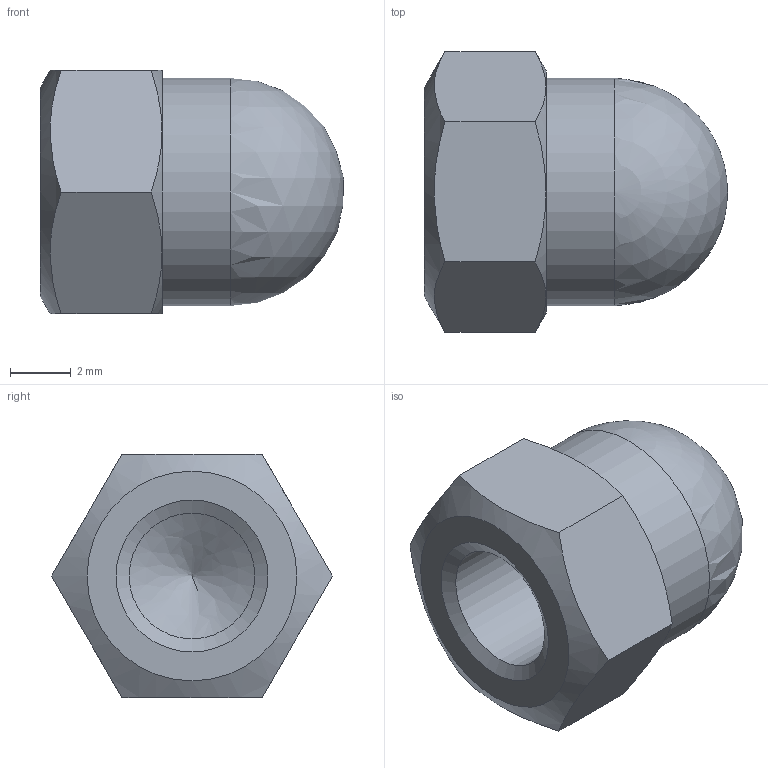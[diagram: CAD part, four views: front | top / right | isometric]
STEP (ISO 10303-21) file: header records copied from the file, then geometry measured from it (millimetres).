
FILE_DESCRIPTION((''),'2;1');
FILE_NAME('C:\Documents and Settings\Administrator\My Documents\Andys Backup Data\WEBSITE\DREAMWEAVER\MiniTec\Products\Screw_And_Nuts\Catalog_Pages\NUTS_ACORN\CAD\step\21.9155 M5 ACORN NUT.stp','2012-10-02T13:29:58',('Administrator'),(''),'Autodesk Inventor 2009','Autodesk Inventor 2009','');
FILE_SCHEMA(('CONFIG_CONTROL_DESIGN'));
Length unit declared in the file: millimetre
Products named in the file (1): M5 ACORN NUT DIN 1587
Bounding box: 9.97 x 9.24 x 8 mm (x, y, z)
Volume: 321.9 mm3; surface area: 402.2 mm2
Topology: 1 solids, 1 shells, 20 faces, 47 edges, 28 vertices
Faces by surface type: cone 8, plane 8, bspline 2, cylinder 1, sphere 1
Full cylindrical faces by diameter (mm): 7.5 x1
Entity records: 517 total; most frequent: CARTESIAN_POINT 151, ORIENTED_EDGE 72, DIRECTION 68, EDGE_CURVE 36, AXIS2_PLACEMENT_3D 31, EDGE_LOOP 26, VERTEX_POINT 24, FACE_OUTER_BOUND 20
